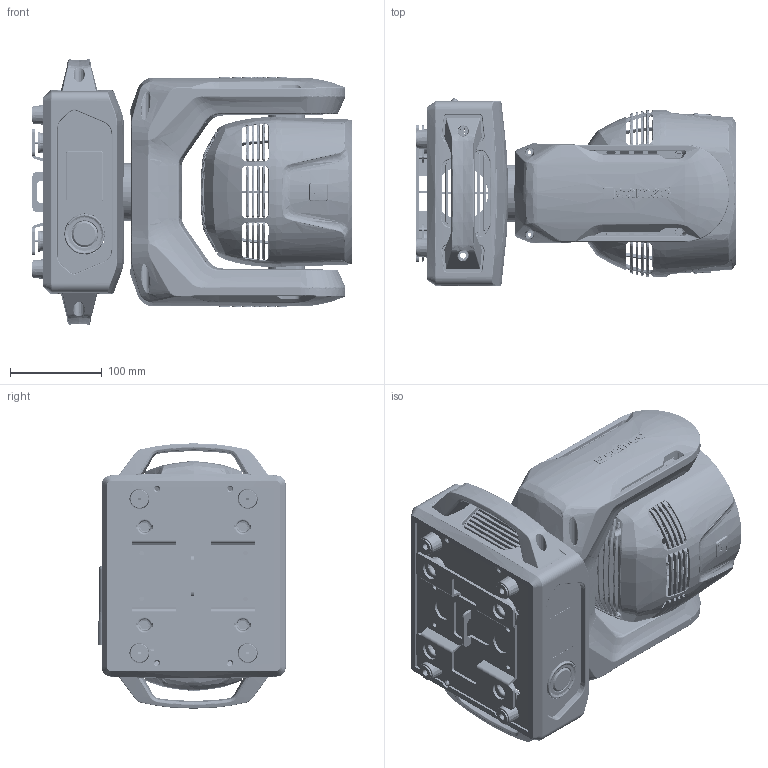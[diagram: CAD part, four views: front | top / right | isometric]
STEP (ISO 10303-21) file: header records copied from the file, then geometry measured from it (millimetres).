
FILE_DESCRIPTION(('HOOPS Exchange Step'),'2;1');
FILE_NAME('E:\cdb\hoops_acs\acs\9788\78884\018275-4-Light Fixture.step','2024-07-15T11:02:26+02:00',('caddok'),('Unknown organisation'),'HOOPS Exchange 2024.0','HOOPS Exchange','Unknown authorisation');
FILE_SCHEMA( ('AP242_MANAGED_MODEL_BASED_3D_ENGINEERING_MIM_LF {1 0 10303 442 1 1 4 }') );
Length unit declared in the file: millimetre
Products named in the file (2): Standard; 018275-4-Light Fixture
Assembly tree (1 placements, depth 2):
  018275-4-Light Fixture
    Standard
Bounding box: 349.84 x 204 x 289.35 mm (x, y, z)
Volume: 1444897.9 mm3; surface area: 1257280 mm2
Topology: 70 solids, 73 shells, 12887 faces, 33480 edges, 20747 vertices
Faces by surface type: bspline 4437, plane 3727, cylinder 2747, cone 782, extrusion 517, sphere 352, torus 325
Entity records: 795844 total; most frequent: CARTESIAN_POINT 519155, ORIENTED_EDGE 66852, DIRECTION 43088, EDGE_CURVE 33430, VERTEX_POINT 20747, AXIS2_PLACEMENT_3D 15745, B_SPLINE_CURVE_WITH_KNOTS 15080, EDGE_LOOP 13645
